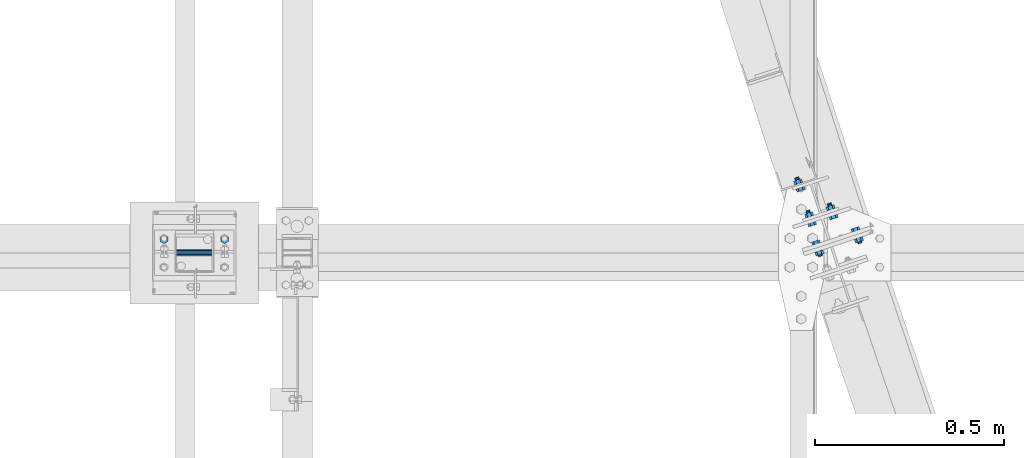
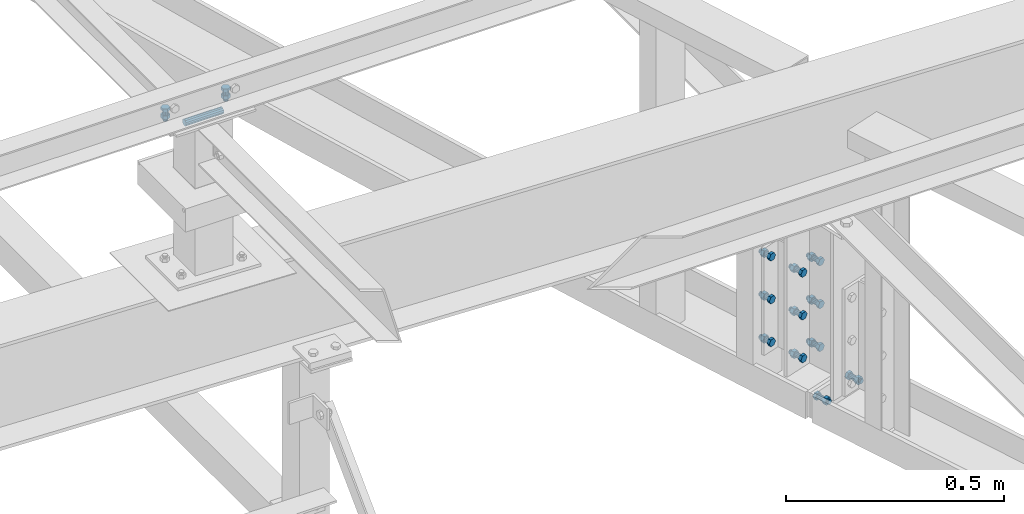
# One storey, part 47 of 3134: 5 mechanical fasteners, 5 elements without a shape of their own.
"""IFC2X3 building model written with IfcOpenShell, lengths in millimetres."""

from ifc_helpers import new_model, si_unit, frame, origin_with_axes, place, context, subcontext, project, spatial, faceted_brep, source, transform, mapped, material, type_object, element, aggregate, save


model = new_model("IFC2X3")

# Units and contexts
model_context = context("Model", 3, precision=1e-05, world=origin_with_axes())
body_context = subcontext(model_context, "Body", "Model", "MODEL_VIEW")
ifc_project = project(units=[si_unit("LENGTHUNIT", "METRE", prefix="MILLI"), si_unit("AREAUNIT", "SQUARE_METRE"), si_unit("VOLUMEUNIT", "CUBIC_METRE"), si_unit("MASSUNIT", "GRAM", prefix="KILO"), si_unit("TIMEUNIT", "SECOND"), si_unit("PLANEANGLEUNIT", "RADIAN"), si_unit("SOLIDANGLEUNIT", "STERADIAN"), si_unit("THERMODYNAMICTEMPERATUREUNIT", "DEGREE_CELSIUS"), si_unit("LUMINOUSINTENSITYUNIT", "LUMEN")], contexts=[model_context])

# Site, building, storey
site_placement = place(None, origin_with_axes())
site = spatial("IfcSite", under=ifc_project, at=site_placement, CompositionType="ELEMENT")
building_placement = place(site_placement, origin_with_axes())
building = spatial("IfcBuilding", under=site, at=building_placement, Name="Undefined", CompositionType="ELEMENT")
storey_placement = place(building_placement, origin_with_axes())
storey = spatial("IfcBuildingStorey", under=building, at=storey_placement, Name="Undefined", CompositionType="ELEMENT", Elevation=0.0)

# Assembly, mechanical fastener
assembly_1_placement = place(storey_placement, origin_with_axes())
assembly_1 = element("IfcElementAssembly", 1, at=assembly_1_placement, inside=storey, Name="HEA100", AssemblyPlace="NOTDEFINED", PredefinedType="RIGID_FRAME")
ifc_material = material(Name="8.8")
mechanical_fastener_type = type_object("IfcMechanicalFastenerType", Name="Bolt assembly")
shared_shape_1 = source(origin_with_axes(), body_context, "Body", "Brep", [
    faceted_brep([(10.9696551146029, -16.0, 0.0), (5.48482755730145, -16.0, 9.5), (-5.48482755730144, -16.0, 9.5), (-10.9696551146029, -16.0, 1.34339530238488e-15), (-5.48482755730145, -16.0, -9.5), (5.48482755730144, -16.0, -9.50000000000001), (5.48482755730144, -8.0, -9.50000000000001), (-5.48482755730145, -8.0, -9.5), (-10.9696551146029, -8.0, 1.34339530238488e-15), (-5.48482755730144, -8.0, 9.5), (5.48482755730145, -8.0, 9.5), (10.9696551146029, -8.0, 0.0), (6.0, -8.0, 0.0), (5.19615242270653, -8.0, 3.00000000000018), (2.99999999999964, -8.0, 5.19615242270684), (-6.21801588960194e-13, -8.0, 6.0), (-3.00000000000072, -8.0, 5.19615242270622), (-5.19615242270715, -8.0, 2.9999999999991), (-6.0, -8.0, -1.24360317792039e-12), (-5.19615242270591, -8.0, -3.00000000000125), (-2.99999999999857, -8.0, -5.19615242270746), (1.85874342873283e-12, -8.0, -6.0), (3.00000000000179, -8.0, -5.1961524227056), (5.19615242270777, -8.0, -2.99999999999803), (5.19615242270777, 22.0, -2.99999999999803), (3.00000000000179, 22.0, -5.1961524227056), (1.85874342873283e-12, 22.0, -6.0), (-2.99999999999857, 22.0, -5.19615242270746), (-5.19615242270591, 22.0, -3.00000000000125), (-6.0, 22.0, -1.24360317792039e-12), (-5.19615242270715, 22.0, 2.9999999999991), (-3.00000000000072, 22.0, 5.19615242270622), (-6.21801588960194e-13, 22.0, 6.0), (2.99999999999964, 22.0, 5.19615242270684), (5.19615242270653, 22.0, 3.00000000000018), (6.0, 22.0, 0.0), (10.9696551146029, 4.00000000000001, 0.0), (5.48482755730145, 4.00000000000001, 9.5), (-5.48482755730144, 4.00000000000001, 9.5), (-10.9696551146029, 4.00000000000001, 1.34339530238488e-15), (-5.48482755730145, 4.00000000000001, -9.5), (5.48482755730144, 4.00000000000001, -9.50000000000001), (5.48482755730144, 14.0, -9.50000000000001), (-5.48482755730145, 14.0, -9.5), (-10.9696551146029, 14.0, 1.34339530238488e-15), (-5.48482755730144, 14.0, 9.5), (5.48482755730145, 14.0, 9.5), (10.9696551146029, 14.0, 0.0)], [[[0, 1, 2, 3, 4, 5]], [[6, 7, 8, 9, 10, 11]], [[0, 11, 10, 1]], [[1, 10, 9, 2]], [[2, 9, 8, 3]], [[3, 8, 7, 4]], [[4, 7, 6, 5]], [[5, 6, 11, 0]], [[12, 13, 14, 15, 16, 17, 18, 19, 20, 21, 22, 23]], [[24, 25, 26, 27, 28, 29, 30, 31, 32, 33, 34, 35]], [[12, 35, 34, 13]], [[13, 34, 33, 14]], [[14, 33, 32, 15]], [[15, 32, 31, 16]], [[16, 31, 30, 17]], [[17, 30, 29, 18]], [[18, 29, 28, 19]], [[19, 28, 27, 20]], [[20, 27, 26, 21]], [[21, 26, 25, 22]], [[22, 25, 24, 23]], [[23, 24, 35, 12]], [[36, 37, 38, 39, 40, 41]], [[42, 43, 44, 45, 46, 47]], [[36, 47, 46, 37]], [[37, 46, 45, 38]], [[38, 45, 44, 39]], [[39, 44, 43, 40]], [[40, 43, 42, 41]], [[41, 42, 47, 36]]]),
    faceted_brep([(7.0, -0.1, 0.0), (6.06217782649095, -0.1, 3.50000000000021), (3.49999999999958, -0.1, 6.06217782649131), (-7.25435187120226e-13, -0.1, 7.0), (-3.50000000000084, -0.1, 6.06217782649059), (-6.06217782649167, -0.1, 3.49999999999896), (-7.0, -0.1, -1.45087037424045e-12), (-6.06217782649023, -0.1, -3.50000000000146), (-3.49999999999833, -0.1, -6.06217782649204), (2.1685340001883e-12, -0.1, -7.0), (3.50000000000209, -0.1, -6.06217782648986), (6.0621778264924, -0.1, -3.4999999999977), (6.0621778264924, 4.00000000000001, -3.4999999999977), (3.50000000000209, 4.00000000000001, -6.06217782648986), (2.1685340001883e-12, 4.00000000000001, -7.0), (-3.49999999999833, 4.00000000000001, -6.06217782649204), (-6.06217782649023, 4.00000000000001, -3.50000000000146), (-7.0, 4.00000000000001, -1.45087037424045e-12), (-6.06217782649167, 4.00000000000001, 3.49999999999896), (-3.50000000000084, 4.00000000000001, 6.06217782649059), (-7.25435187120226e-13, 4.00000000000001, 7.0), (3.49999999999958, 4.00000000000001, 6.06217782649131), (6.06217782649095, 4.00000000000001, 3.50000000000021), (7.0, 4.00000000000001, 0.0), (7.0, -7.9, 0.0), (6.06217782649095, -7.9, 3.50000000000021), (3.49999999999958, -7.9, 6.06217782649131), (-7.25435187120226e-13, -7.9, 7.0), (-3.50000000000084, -7.9, 6.06217782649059), (-6.06217782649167, -7.9, 3.49999999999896), (-7.0, -7.9, -1.45087037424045e-12), (-6.06217782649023, -7.9, -3.50000000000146), (-3.49999999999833, -7.9, -6.06217782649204), (2.1685340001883e-12, -7.9, -7.0), (3.50000000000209, -7.9, -6.06217782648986), (6.0621778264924, -7.9, -3.4999999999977), (6.0621778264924, 0.0999999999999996, -3.4999999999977), (3.50000000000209, 0.0999999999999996, -6.06217782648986), (2.1685340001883e-12, 0.0999999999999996, -7.0), (-3.49999999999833, 0.0999999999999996, -6.06217782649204), (-6.06217782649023, 0.0999999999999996, -3.50000000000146), (-7.0, 0.0999999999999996, -1.45087037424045e-12), (-6.06217782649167, 0.0999999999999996, 3.49999999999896), (-3.50000000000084, 0.0999999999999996, 6.06217782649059), (-7.25435187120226e-13, 0.0999999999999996, 7.0), (3.49999999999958, 0.0999999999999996, 6.06217782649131), (6.06217782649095, 0.0999999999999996, 3.50000000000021), (7.0, 0.0999999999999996, 0.0)], [[[0, 1, 2, 3, 4, 5, 6, 7, 8, 9, 10, 11]], [[12, 13, 14, 15, 16, 17, 18, 19, 20, 21, 22, 23]], [[0, 23, 22, 1]], [[1, 22, 21, 2]], [[2, 21, 20, 3]], [[3, 20, 19, 4]], [[4, 19, 18, 5]], [[5, 18, 17, 6]], [[6, 17, 16, 7]], [[7, 16, 15, 8]], [[8, 15, 14, 9]], [[9, 14, 13, 10]], [[10, 13, 12, 11]], [[11, 12, 23, 0]], [[24, 25, 26, 27, 28, 29, 30, 31, 32, 33, 34, 35]], [[36, 37, 38, 39, 40, 41, 42, 43, 44, 45, 46, 47]], [[24, 47, 46, 25]], [[25, 46, 45, 26]], [[26, 45, 44, 27]], [[27, 44, 43, 28]], [[28, 43, 42, 29]], [[29, 42, 41, 30]], [[30, 41, 40, 31]], [[31, 40, 39, 32]], [[32, 39, 38, 33]], [[33, 38, 37, 34]], [[34, 37, 36, 35]], [[35, 36, 47, 24]]]),
])
mechanical_fastener_1_placement = place(assembly_1_placement, frame((4642.48947804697, 19629.1733036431, 3170.0), z_axis=(0.0, 0.0, 1.0), x_axis=(0.949347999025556, 0.314226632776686, 0.0)))
mechanical_fastener_1 = element("IfcMechanicalFastener", 2, at=mechanical_fastener_1_placement, type_object=mechanical_fastener_type, material=ifc_material, Name="Bolt assembly", NominalDiameter=12.0, NominalLength=30.0, context=body_context, shape_type="MappedRepresentation", body=[
    mapped(shared_shape_1, transform((0.0, 0.0, -120.0))),
    mapped(shared_shape_1, transform((0.0, 0.0, 0.0))),
    mapped(shared_shape_1, transform((0.0, 0.0, 120.0))),
])
aggregate(assembly_1, [mechanical_fastener_1])

assembly_2_placement = place(storey_placement, origin_with_axes())
assembly_2 = element("IfcElementAssembly", 3, at=assembly_2_placement, inside=storey, AssemblyPlace="NOTDEFINED", PredefinedType="RIGID_FRAME")
shared_shape_2 = source(origin_with_axes(), body_context, "Body", "Brep", [
    faceted_brep([(10.9696551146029, -14.0, 0.0), (5.48482755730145, -14.0, 9.5), (-5.48482755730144, -14.0, 9.5), (-10.9696551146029, -14.0, 1.34339530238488e-15), (-5.48482755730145, -14.0, -9.5), (5.48482755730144, -14.0, -9.50000000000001), (5.48482755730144, -6.0, -9.50000000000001), (-5.48482755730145, -6.0, -9.5), (-10.9696551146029, -6.0, 1.34339530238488e-15), (-5.48482755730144, -6.0, 9.5), (5.48482755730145, -6.0, 9.5), (10.9696551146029, -6.0, 0.0), (6.0, -6.0, 0.0), (5.19615242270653, -6.0, 3.00000000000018), (2.99999999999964, -6.0, 5.19615242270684), (-6.21801588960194e-13, -6.0, 6.0), (-3.00000000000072, -6.0, 5.19615242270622), (-5.19615242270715, -6.0, 2.9999999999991), (-6.0, -6.0, -1.24360317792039e-12), (-5.19615242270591, -6.0, -3.00000000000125), (-2.99999999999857, -6.0, -5.19615242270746), (1.85874342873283e-12, -6.0, -6.0), (3.00000000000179, -6.0, -5.1961524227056), (5.19615242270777, -6.0, -2.99999999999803), (5.19615242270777, 24.0, -2.99999999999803), (3.00000000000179, 24.0, -5.1961524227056), (1.85874342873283e-12, 24.0, -6.0), (-2.99999999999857, 24.0, -5.19615242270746), (-5.19615242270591, 24.0, -3.00000000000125), (-6.0, 24.0, -1.24360317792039e-12), (-5.19615242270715, 24.0, 2.9999999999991), (-3.00000000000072, 24.0, 5.19615242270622), (-6.21801588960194e-13, 24.0, 6.0), (2.99999999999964, 24.0, 5.19615242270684), (5.19615242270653, 24.0, 3.00000000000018), (6.0, 24.0, 0.0), (10.9696551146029, 6.00000000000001, 0.0), (5.48482755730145, 6.00000000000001, 9.5), (-5.48482755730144, 6.00000000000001, 9.5), (-10.9696551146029, 6.00000000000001, 1.34339530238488e-15), (-5.48482755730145, 6.00000000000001, -9.5), (5.48482755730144, 6.00000000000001, -9.50000000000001), (5.48482755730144, 16.0, -9.50000000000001), (-5.48482755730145, 16.0, -9.5), (-10.9696551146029, 16.0, 1.34339530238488e-15), (-5.48482755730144, 16.0, 9.5), (5.48482755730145, 16.0, 9.5), (10.9696551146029, 16.0, 0.0)], [[[0, 1, 2, 3, 4, 5]], [[6, 7, 8, 9, 10, 11]], [[0, 11, 10, 1]], [[1, 10, 9, 2]], [[2, 9, 8, 3]], [[3, 8, 7, 4]], [[4, 7, 6, 5]], [[5, 6, 11, 0]], [[12, 13, 14, 15, 16, 17, 18, 19, 20, 21, 22, 23]], [[24, 25, 26, 27, 28, 29, 30, 31, 32, 33, 34, 35]], [[12, 35, 34, 13]], [[13, 34, 33, 14]], [[14, 33, 32, 15]], [[15, 32, 31, 16]], [[16, 31, 30, 17]], [[17, 30, 29, 18]], [[18, 29, 28, 19]], [[19, 28, 27, 20]], [[20, 27, 26, 21]], [[21, 26, 25, 22]], [[22, 25, 24, 23]], [[23, 24, 35, 12]], [[36, 37, 38, 39, 40, 41]], [[42, 43, 44, 45, 46, 47]], [[36, 47, 46, 37]], [[37, 46, 45, 38]], [[38, 45, 44, 39]], [[39, 44, 43, 40]], [[40, 43, 42, 41]], [[41, 42, 47, 36]]]),
    faceted_brep([(7.0, -0.1, 0.0), (6.06217782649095, -0.1, 3.50000000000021), (3.49999999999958, -0.1, 6.06217782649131), (-7.25435187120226e-13, -0.1, 7.0), (-3.50000000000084, -0.1, 6.06217782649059), (-6.06217782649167, -0.1, 3.49999999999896), (-7.0, -0.1, -1.45087037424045e-12), (-6.06217782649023, -0.1, -3.50000000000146), (-3.49999999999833, -0.1, -6.06217782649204), (2.1685340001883e-12, -0.1, -7.0), (3.50000000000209, -0.1, -6.06217782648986), (6.0621778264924, -0.1, -3.4999999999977), (6.0621778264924, 6.00000000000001, -3.4999999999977), (3.50000000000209, 6.00000000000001, -6.06217782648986), (2.1685340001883e-12, 6.00000000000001, -7.0), (-3.49999999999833, 6.00000000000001, -6.06217782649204), (-6.06217782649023, 6.00000000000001, -3.50000000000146), (-7.0, 6.00000000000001, -1.45087037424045e-12), (-6.06217782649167, 6.00000000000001, 3.49999999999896), (-3.50000000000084, 6.00000000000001, 6.06217782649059), (-7.25435187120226e-13, 6.00000000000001, 7.0), (3.49999999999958, 6.00000000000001, 6.06217782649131), (6.06217782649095, 6.00000000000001, 3.50000000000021), (7.0, 6.00000000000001, 0.0), (7.0, -5.9, 0.0), (6.06217782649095, -5.9, 3.50000000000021), (3.49999999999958, -5.9, 6.06217782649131), (-7.25435187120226e-13, -5.9, 7.0), (-3.50000000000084, -5.9, 6.06217782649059), (-6.06217782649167, -5.9, 3.49999999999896), (-7.0, -5.9, -1.45087037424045e-12), (-6.06217782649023, -5.9, -3.50000000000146), (-3.49999999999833, -5.9, -6.06217782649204), (2.1685340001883e-12, -5.9, -7.0), (3.50000000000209, -5.9, -6.06217782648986), (6.0621778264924, -5.9, -3.4999999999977), (6.0621778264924, 0.0999999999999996, -3.4999999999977), (3.50000000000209, 0.0999999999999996, -6.06217782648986), (2.1685340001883e-12, 0.0999999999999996, -7.0), (-3.49999999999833, 0.0999999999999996, -6.06217782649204), (-6.06217782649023, 0.0999999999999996, -3.50000000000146), (-7.0, 0.0999999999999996, -1.45087037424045e-12), (-6.06217782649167, 0.0999999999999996, 3.49999999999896), (-3.50000000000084, 0.0999999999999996, 6.06217782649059), (-7.25435187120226e-13, 0.0999999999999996, 7.0), (3.49999999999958, 0.0999999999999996, 6.06217782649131), (6.06217782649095, 0.0999999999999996, 3.50000000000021), (7.0, 0.0999999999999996, 0.0)], [[[0, 1, 2, 3, 4, 5, 6, 7, 8, 9, 10, 11]], [[12, 13, 14, 15, 16, 17, 18, 19, 20, 21, 22, 23]], [[0, 23, 22, 1]], [[1, 22, 21, 2]], [[2, 21, 20, 3]], [[3, 20, 19, 4]], [[4, 19, 18, 5]], [[5, 18, 17, 6]], [[6, 17, 16, 7]], [[7, 16, 15, 8]], [[8, 15, 14, 9]], [[9, 14, 13, 10]], [[10, 13, 12, 11]], [[11, 12, 23, 0]], [[24, 25, 26, 27, 28, 29, 30, 31, 32, 33, 34, 35]], [[36, 37, 38, 39, 40, 41, 42, 43, 44, 45, 46, 47]], [[24, 47, 46, 25]], [[25, 46, 45, 26]], [[26, 45, 44, 27]], [[27, 44, 43, 28]], [[28, 43, 42, 29]], [[29, 42, 41, 30]], [[30, 41, 40, 31]], [[31, 40, 39, 32]], [[32, 39, 38, 33]], [[33, 38, 37, 34]], [[34, 37, 36, 35]], [[35, 36, 47, 24]]]),
])
mechanical_fastener_2_placement = place(assembly_2_placement, frame((3043.33, 19485.0, 4365.0), z_axis=(1.0, 0.0, 0.0), x_axis=(0.0, -1.0, 0.0)))
mechanical_fastener_2 = element("IfcMechanicalFastener", 4, at=mechanical_fastener_2_placement, type_object=mechanical_fastener_type, material=ifc_material, Name="Bolt assembly", NominalDiameter=12.0, NominalLength=30.0, context=body_context, shape_type="MappedRepresentation", body=[
    mapped(shared_shape_2, transform((0.0, -5.32963895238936e-10, -79.9999999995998))),
    mapped(shared_shape_2, transform((0.0, 5.3114490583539e-10, 79.9999999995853))),
])
aggregate(assembly_2, [mechanical_fastener_2])

assembly_3_placement = place(storey_placement, origin_with_axes())
assembly_3 = element("IfcElementAssembly", 5, at=assembly_3_placement, inside=storey, Name="HEA160", AssemblyPlace="NOTDEFINED", PredefinedType="RIGID_FRAME")
shared_shape_3 = source(origin_with_axes(), body_context, "Body", "Brep", [
    faceted_brep([(10.9696551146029, -17.0000000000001, 0.0), (5.48482755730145, -17.0000000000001, 9.5), (-5.48482755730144, -17.0000000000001, 9.5), (-10.9696551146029, -17.0000000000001, 1.34339530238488e-15), (-5.48482755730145, -17.0000000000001, -9.5), (5.48482755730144, -17.0000000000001, -9.50000000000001), (5.48482755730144, -9.00000000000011, -9.50000000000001), (-5.48482755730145, -9.00000000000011, -9.5), (-10.9696551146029, -9.00000000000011, 1.34339530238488e-15), (-5.48482755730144, -9.00000000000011, 9.5), (5.48482755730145, -9.00000000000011, 9.5), (10.9696551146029, -9.00000000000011, 0.0), (6.0, -9.00000000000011, 0.0), (5.19615242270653, -9.00000000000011, 3.00000000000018), (2.99999999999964, -9.00000000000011, 5.19615242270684), (-6.21801588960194e-13, -9.00000000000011, 6.0), (-3.00000000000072, -9.00000000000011, 5.19615242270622), (-5.19615242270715, -9.00000000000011, 2.9999999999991), (-6.0, -9.00000000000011, -1.24360317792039e-12), (-5.19615242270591, -9.00000000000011, -3.00000000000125), (-2.99999999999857, -9.00000000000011, -5.19615242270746), (1.85874342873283e-12, -9.00000000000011, -6.0), (3.00000000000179, -9.00000000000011, -5.1961524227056), (5.19615242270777, -9.00000000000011, -2.99999999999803), (5.19615242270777, 26.0, -2.99999999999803), (3.00000000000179, 26.0, -5.1961524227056), (1.85874342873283e-12, 26.0, -6.0), (-2.99999999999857, 26.0, -5.19615242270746), (-5.19615242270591, 26.0, -3.00000000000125), (-6.0, 26.0, -1.24360317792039e-12), (-5.19615242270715, 26.0, 2.9999999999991), (-3.00000000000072, 26.0, 5.19615242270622), (-6.21801588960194e-13, 26.0, 6.0), (2.99999999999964, 26.0, 5.19615242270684), (5.19615242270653, 26.0, 3.00000000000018), (6.0, 26.0, 0.0), (10.9696551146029, 8.0, 0.0), (5.48482755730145, 8.0, 9.5), (-5.48482755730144, 8.0, 9.5), (-10.9696551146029, 8.0, 1.34339530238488e-15), (-5.48482755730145, 8.0, -9.5), (5.48482755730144, 8.0, -9.50000000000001), (5.48482755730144, 18.0, -9.50000000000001), (-5.48482755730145, 18.0, -9.5), (-10.9696551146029, 18.0, 1.34339530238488e-15), (-5.48482755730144, 18.0, 9.5), (5.48482755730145, 18.0, 9.5), (10.9696551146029, 18.0, 0.0)], [[[0, 1, 2, 3, 4, 5]], [[6, 7, 8, 9, 10, 11]], [[0, 11, 10, 1]], [[1, 10, 9, 2]], [[2, 9, 8, 3]], [[3, 8, 7, 4]], [[4, 7, 6, 5]], [[5, 6, 11, 0]], [[12, 13, 14, 15, 16, 17, 18, 19, 20, 21, 22, 23]], [[24, 25, 26, 27, 28, 29, 30, 31, 32, 33, 34, 35]], [[12, 35, 34, 13]], [[13, 34, 33, 14]], [[14, 33, 32, 15]], [[15, 32, 31, 16]], [[16, 31, 30, 17]], [[17, 30, 29, 18]], [[18, 29, 28, 19]], [[19, 28, 27, 20]], [[20, 27, 26, 21]], [[21, 26, 25, 22]], [[22, 25, 24, 23]], [[23, 24, 35, 12]], [[36, 37, 38, 39, 40, 41]], [[42, 43, 44, 45, 46, 47]], [[36, 47, 46, 37]], [[37, 46, 45, 38]], [[38, 45, 44, 39]], [[39, 44, 43, 40]], [[40, 43, 42, 41]], [[41, 42, 47, 36]]]),
    faceted_brep([(7.0, -0.1, 0.0), (6.06217782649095, -0.1, 3.50000000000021), (3.49999999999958, -0.1, 6.06217782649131), (-7.25435187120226e-13, -0.1, 7.0), (-3.50000000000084, -0.1, 6.06217782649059), (-6.06217782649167, -0.1, 3.49999999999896), (-7.0, -0.1, -1.45087037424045e-12), (-6.06217782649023, -0.1, -3.50000000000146), (-3.49999999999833, -0.1, -6.06217782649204), (2.1685340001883e-12, -0.1, -7.0), (3.50000000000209, -0.1, -6.06217782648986), (6.0621778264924, -0.1, -3.4999999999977), (6.0621778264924, 8.0000000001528, -3.4999999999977), (3.50000000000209, 8.0000000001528, -6.06217782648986), (2.1685340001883e-12, 8.0000000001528, -7.0), (-3.49999999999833, 8.0000000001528, -6.06217782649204), (-6.06217782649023, 8.0000000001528, -3.50000000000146), (-7.0, 8.0000000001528, -1.45087037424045e-12), (-6.06217782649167, 8.0000000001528, 3.49999999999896), (-3.50000000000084, 8.0000000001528, 6.06217782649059), (-7.25435187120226e-13, 8.0000000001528, 7.0), (3.49999999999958, 8.0000000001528, 6.06217782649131), (6.06217782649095, 8.0000000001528, 3.50000000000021), (7.0, 8.0000000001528, 0.0), (7.0, -8.90000000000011, 0.0), (6.06217782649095, -8.90000000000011, 3.50000000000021), (3.49999999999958, -8.90000000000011, 6.06217782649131), (-7.25435187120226e-13, -8.90000000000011, 7.0), (-3.50000000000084, -8.90000000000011, 6.06217782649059), (-6.06217782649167, -8.90000000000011, 3.49999999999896), (-7.0, -8.90000000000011, -1.45087037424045e-12), (-6.06217782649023, -8.90000000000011, -3.50000000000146), (-3.49999999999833, -8.90000000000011, -6.06217782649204), (2.1685340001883e-12, -8.90000000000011, -7.0), (3.50000000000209, -8.90000000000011, -6.06217782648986), (6.0621778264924, -8.90000000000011, -3.4999999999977), (6.0621778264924, 0.0999999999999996, -3.4999999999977), (3.50000000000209, 0.0999999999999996, -6.06217782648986), (2.1685340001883e-12, 0.0999999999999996, -7.0), (-3.49999999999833, 0.0999999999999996, -6.06217782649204), (-6.06217782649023, 0.0999999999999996, -3.50000000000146), (-7.0, 0.0999999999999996, -1.45087037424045e-12), (-6.06217782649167, 0.0999999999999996, 3.49999999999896), (-3.50000000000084, 0.0999999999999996, 6.06217782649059), (-7.25435187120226e-13, 0.0999999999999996, 7.0), (3.49999999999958, 0.0999999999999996, 6.06217782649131), (6.06217782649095, 0.0999999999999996, 3.50000000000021), (7.0, 0.0999999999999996, 0.0)], [[[0, 1, 2, 3, 4, 5, 6, 7, 8, 9, 10, 11]], [[12, 13, 14, 15, 16, 17, 18, 19, 20, 21, 22, 23]], [[0, 23, 22, 1]], [[1, 22, 21, 2]], [[2, 21, 20, 3]], [[3, 20, 19, 4]], [[4, 19, 18, 5]], [[5, 18, 17, 6]], [[6, 17, 16, 7]], [[7, 16, 15, 8]], [[8, 15, 14, 9]], [[9, 14, 13, 10]], [[10, 13, 12, 11]], [[11, 12, 23, 0]], [[24, 25, 26, 27, 28, 29, 30, 31, 32, 33, 34, 35]], [[36, 37, 38, 39, 40, 41, 42, 43, 44, 45, 46, 47]], [[24, 47, 46, 25]], [[25, 46, 45, 26]], [[26, 45, 44, 27]], [[27, 44, 43, 28]], [[28, 43, 42, 29]], [[29, 42, 41, 30]], [[30, 41, 40, 31]], [[31, 40, 39, 32]], [[32, 39, 38, 33]], [[33, 38, 37, 34]], [[34, 37, 36, 35]], [[35, 36, 47, 24]]]),
])
mechanical_fastener_3_placement = place(assembly_3_placement, frame((4672.65523996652, 19538.0358974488, 3170.0), z_axis=(0.0, 0.0, 1.0), x_axis=(0.949347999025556, 0.314226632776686, 0.0)))
mechanical_fastener_3 = element("IfcMechanicalFastener", 6, at=mechanical_fastener_3_placement, type_object=mechanical_fastener_type, material=ifc_material, Name="Bolt assembly", NominalDiameter=12.0, NominalLength=35.0, context=body_context, shape_type="MappedRepresentation", body=[
    mapped(shared_shape_3, transform((0.0, 0.0, -120.0))),
    mapped(shared_shape_3, transform((60.0000000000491, 0.0, -120.0))),
    mapped(shared_shape_3, transform((0.0, 0.0, 0.0))),
    mapped(shared_shape_3, transform((59.9999999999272, 0.0, 5.40239852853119e-10))),
    mapped(shared_shape_3, transform((0.0, 0.0, 120.0))),
    mapped(shared_shape_3, transform((60.0000000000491, 0.0, 120.0))),
])
aggregate(assembly_3, [mechanical_fastener_3])

assembly_4_placement = place(storey_placement, origin_with_axes())
assembly_4 = element("IfcElementAssembly", 7, at=assembly_4_placement, inside=storey, Name="UPN200", AssemblyPlace="NOTDEFINED", PredefinedType="RIGID_FRAME")
shared_shape_4 = source(origin_with_axes(), body_context, "Body", "Brep", [
    faceted_brep([(10.9696551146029, -18.0, 0.0), (5.48482755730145, -18.0, 9.5), (-5.48482755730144, -18.0, 9.5), (-10.9696551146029, -18.0, 1.34339530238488e-15), (-5.48482755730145, -18.0, -9.5), (5.48482755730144, -18.0, -9.50000000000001), (5.48482755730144, -10.0, -9.50000000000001), (-5.48482755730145, -10.0, -9.5), (-10.9696551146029, -10.0, 1.34339530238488e-15), (-5.48482755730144, -10.0, 9.5), (5.48482755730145, -10.0, 9.5), (10.9696551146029, -10.0, 0.0), (6.0, -10.0, 0.0), (5.19615242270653, -10.0, 3.00000000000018), (2.99999999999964, -10.0, 5.19615242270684), (-6.21801588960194e-13, -10.0, 6.0), (-3.00000000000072, -10.0, 5.19615242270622), (-5.19615242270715, -10.0, 2.9999999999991), (-6.0, -10.0, -1.24360317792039e-12), (-5.19615242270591, -10.0, -3.00000000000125), (-2.99999999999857, -10.0, -5.19615242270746), (1.85874342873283e-12, -10.0, -6.0), (3.00000000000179, -10.0, -5.1961524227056), (5.19615242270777, -10.0, -2.99999999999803), (5.19615242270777, 24.9999999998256, -2.99999999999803), (3.00000000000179, 24.9999999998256, -5.1961524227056), (1.85874342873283e-12, 24.9999999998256, -6.0), (-2.99999999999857, 24.9999999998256, -5.19615242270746), (-5.19615242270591, 24.9999999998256, -3.00000000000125), (-6.0, 24.9999999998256, -1.24360317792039e-12), (-5.19615242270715, 24.9999999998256, 2.9999999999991), (-3.00000000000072, 24.9999999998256, 5.19615242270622), (-6.21801588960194e-13, 24.9999999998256, 6.0), (2.99999999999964, 24.9999999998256, 5.19615242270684), (5.19615242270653, 24.9999999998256, 3.00000000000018), (6.0, 24.9999999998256, 0.0), (10.9696551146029, 10.0, 0.0), (5.48482755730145, 10.0, 9.5), (-5.48482755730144, 10.0, 9.5), (-10.9696551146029, 10.0, 1.34339530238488e-15), (-5.48482755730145, 10.0, -9.5), (5.48482755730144, 10.0, -9.50000000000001), (5.48482755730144, 20.0, -9.50000000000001), (-5.48482755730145, 20.0, -9.5), (-10.9696551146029, 20.0, 1.34339530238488e-15), (-5.48482755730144, 20.0, 9.5), (5.48482755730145, 20.0, 9.5), (10.9696551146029, 20.0, 0.0)], [[[0, 1, 2, 3, 4, 5]], [[6, 7, 8, 9, 10, 11]], [[0, 11, 10, 1]], [[1, 10, 9, 2]], [[2, 9, 8, 3]], [[3, 8, 7, 4]], [[4, 7, 6, 5]], [[5, 6, 11, 0]], [[12, 13, 14, 15, 16, 17, 18, 19, 20, 21, 22, 23]], [[24, 25, 26, 27, 28, 29, 30, 31, 32, 33, 34, 35]], [[12, 35, 34, 13]], [[13, 34, 33, 14]], [[14, 33, 32, 15]], [[15, 32, 31, 16]], [[16, 31, 30, 17]], [[17, 30, 29, 18]], [[18, 29, 28, 19]], [[19, 28, 27, 20]], [[20, 27, 26, 21]], [[21, 26, 25, 22]], [[22, 25, 24, 23]], [[23, 24, 35, 12]], [[36, 37, 38, 39, 40, 41]], [[42, 43, 44, 45, 46, 47]], [[36, 47, 46, 37]], [[37, 46, 45, 38]], [[38, 45, 44, 39]], [[39, 44, 43, 40]], [[40, 43, 42, 41]], [[41, 42, 47, 36]]]),
    faceted_brep([(7.0, -0.1, 0.0), (6.06217782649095, -0.1, 3.50000000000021), (3.49999999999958, -0.1, 6.06217782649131), (-7.25435187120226e-13, -0.1, 7.0), (-3.50000000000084, -0.1, 6.06217782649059), (-6.06217782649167, -0.1, 3.49999999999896), (-7.0, -0.1, -1.45087037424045e-12), (-6.06217782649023, -0.1, -3.50000000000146), (-3.49999999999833, -0.1, -6.06217782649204), (2.1685340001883e-12, -0.1, -7.0), (3.50000000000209, -0.1, -6.06217782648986), (6.0621778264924, -0.1, -3.4999999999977), (6.0621778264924, 10.0, -3.4999999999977), (3.50000000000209, 10.0, -6.06217782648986), (2.1685340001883e-12, 10.0, -7.0), (-3.49999999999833, 10.0, -6.06217782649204), (-6.06217782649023, 10.0, -3.50000000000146), (-7.0, 10.0, -1.45087037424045e-12), (-6.06217782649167, 10.0, 3.49999999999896), (-3.50000000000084, 10.0, 6.06217782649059), (-7.25435187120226e-13, 10.0, 7.0), (3.49999999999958, 10.0, 6.06217782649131), (6.06217782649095, 10.0, 3.50000000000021), (7.0, 10.0, 0.0), (7.0, -9.89999913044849, 0.0), (6.06217782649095, -9.89999913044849, 3.50000000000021), (3.49999999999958, -9.89999913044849, 6.06217782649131), (-7.25435187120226e-13, -9.89999913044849, 7.0), (-3.50000000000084, -9.89999913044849, 6.06217782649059), (-6.06217782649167, -9.89999913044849, 3.49999999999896), (-7.0, -9.89999913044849, -1.45087037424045e-12), (-6.06217782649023, -9.89999913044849, -3.50000000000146), (-3.49999999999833, -9.89999913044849, -6.06217782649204), (2.1685340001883e-12, -9.89999913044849, -7.0), (3.50000000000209, -9.89999913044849, -6.06217782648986), (6.0621778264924, -9.89999913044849, -3.4999999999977), (6.0621778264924, 0.0999999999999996, -3.4999999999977), (3.50000000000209, 0.0999999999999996, -6.06217782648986), (2.1685340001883e-12, 0.0999999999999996, -7.0), (-3.49999999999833, 0.0999999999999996, -6.06217782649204), (-6.06217782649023, 0.0999999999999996, -3.50000000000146), (-7.0, 0.0999999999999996, -1.45087037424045e-12), (-6.06217782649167, 0.0999999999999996, 3.49999999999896), (-3.50000000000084, 0.0999999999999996, 6.06217782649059), (-7.25435187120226e-13, 0.0999999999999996, 7.0), (3.49999999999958, 0.0999999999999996, 6.06217782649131), (6.06217782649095, 0.0999999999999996, 3.50000000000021), (7.0, 0.0999999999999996, 0.0)], [[[0, 1, 2, 3, 4, 5, 6, 7, 8, 9, 10, 11]], [[12, 13, 14, 15, 16, 17, 18, 19, 20, 21, 22, 23]], [[0, 23, 22, 1]], [[1, 22, 21, 2]], [[2, 21, 20, 3]], [[3, 20, 19, 4]], [[4, 19, 18, 5]], [[5, 18, 17, 6]], [[6, 17, 16, 7]], [[7, 16, 15, 8]], [[8, 15, 14, 9]], [[9, 14, 13, 10]], [[10, 13, 12, 11]], [[11, 12, 23, 0]], [[24, 25, 26, 27, 28, 29, 30, 31, 32, 33, 34, 35]], [[36, 37, 38, 39, 40, 41, 42, 43, 44, 45, 46, 47]], [[24, 47, 46, 25]], [[25, 46, 45, 26]], [[26, 45, 44, 27]], [[27, 44, 43, 28]], [[28, 43, 42, 29]], [[29, 42, 41, 30]], [[30, 41, 40, 31]], [[31, 40, 39, 32]], [[32, 39, 38, 33]], [[33, 38, 37, 34]], [[34, 37, 36, 35]], [[35, 36, 47, 24]]]),
])
mechanical_fastener_4_placement = place(assembly_4_placement, frame((4795.68279729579, 19498.708792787, 2970.34187571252), z_axis=(-1.97000019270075e-05, 6.22000060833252e-05, 0.999999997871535), x_axis=(-0.949348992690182, -0.314223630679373, 9.00000089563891e-07)))
mechanical_fastener_4 = element("IfcMechanicalFastener", 8, at=mechanical_fastener_4_placement, type_object=mechanical_fastener_type, material=ifc_material, Name="Bolt assembly", NominalDiameter=12.0, NominalLength=35.0, context=body_context, shape_type="MappedRepresentation", body=[
    mapped(shared_shape_4, transform((0.0, 0.0, 0.0))),
    mapped(shared_shape_4, transform((110.0, 0.0, 0.0))),
])
aggregate(assembly_4, [mechanical_fastener_4])

assembly_5_placement = place(storey_placement, origin_with_axes())
assembly_5 = element("IfcElementAssembly", 9, at=assembly_5_placement, inside=storey, AssemblyPlace="NOTDEFINED", PredefinedType="RIGID_FRAME")
shared_shape_5 = source(origin_with_axes(), body_context, "Body", "Brep", [
    faceted_brep([(9.0, -50.0, 0.0), (7.79422863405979, -50.0, 4.50000000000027), (4.49999999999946, -50.0, 7.79422863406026), (-9.3270238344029e-13, -50.0, 9.0), (-4.50000000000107, -50.0, 7.79422863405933), (-7.79422863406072, -50.0, 4.49999999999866), (-9.0, -50.0, -1.86540476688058e-12), (-7.79422863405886, -50.0, -4.50000000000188), (-4.49999999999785, -50.0, -7.79422863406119), (2.78811514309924e-12, -50.0, -9.0), (4.50000000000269, -50.0, -7.7942286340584), (7.79422863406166, -50.0, -4.49999999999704), (7.79422863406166, 50.1, -4.49999999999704), (4.50000000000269, 50.1, -7.7942286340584), (2.78811514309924e-12, 50.1, -9.0), (-4.49999999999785, 50.1, -7.79422863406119), (-7.79422863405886, 50.1, -4.50000000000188), (-9.0, 50.1, -1.86540476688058e-12), (-7.79422863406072, 50.1, 4.49999999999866), (-4.50000000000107, 50.1, 7.79422863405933), (-9.3270238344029e-13, 50.1, 9.0), (4.49999999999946, 50.1, 7.79422863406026), (7.79422863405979, 50.1, 4.50000000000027), (9.0, 50.1, 0.0)], [[[0, 1, 2, 3, 4, 5, 6, 7, 8, 9, 10, 11]], [[12, 13, 14, 15, 16, 17, 18, 19, 20, 21, 22, 23]], [[0, 23, 22, 1]], [[1, 22, 21, 2]], [[2, 21, 20, 3]], [[3, 20, 19, 4]], [[4, 19, 18, 5]], [[5, 18, 17, 6]], [[6, 17, 16, 7]], [[7, 16, 15, 8]], [[8, 15, 14, 9]], [[9, 14, 13, 10]], [[10, 13, 12, 11]], [[11, 12, 23, 0]]]),
])
mechanical_fastener_5_placement = place(assembly_5_placement, frame((3043.33, 19450.0, 4345.0), z_axis=(0.0, 1.0, 0.0), x_axis=(0.0, 0.0, 1.0)))
mechanical_fastener_5 = element("IfcMechanicalFastener", 10, at=mechanical_fastener_5_placement, type_object=mechanical_fastener_type, material=ifc_material, Name="Bolt assembly", NominalDiameter=16.0, NominalLength=100.0, context=body_context, shape_type="MappedRepresentation", body=[
    mapped(shared_shape_5, transform((0.0, 0.0, 0.0))),
])
aggregate(assembly_5, [mechanical_fastener_5])

save(model, "model.ifc")
